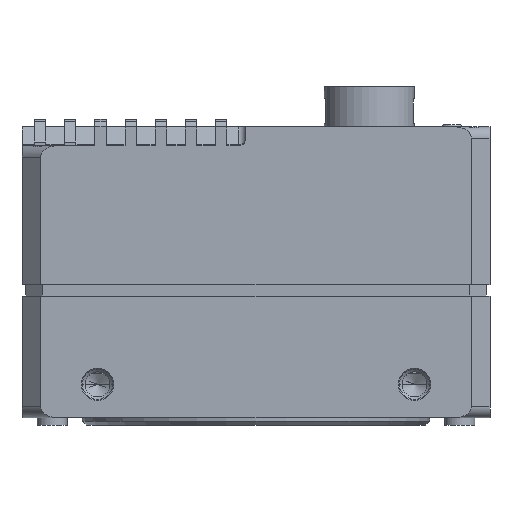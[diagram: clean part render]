
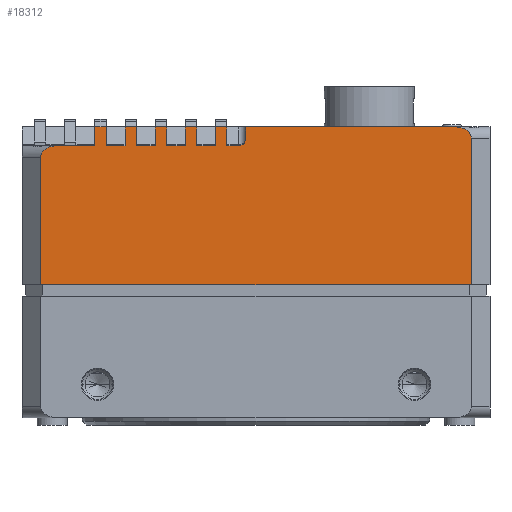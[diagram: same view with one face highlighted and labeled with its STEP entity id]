
A CAD part, front view. The second image highlights one B-rep face of the part: STEP entity #18312.
In plain terms, the highlighted planar face has unit normal (0, -1, 0) as drawn and (0, 1, 0) by its records, which use the part's own axes.
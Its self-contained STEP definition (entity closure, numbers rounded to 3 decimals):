
#14422=DIRECTION('',(0.,0.,1.));
#14423=VECTOR('',#14422,2.5);
#14424=CARTESIAN_POINT('',(7.85,31.,21.995));
#14425=LINE('',#14424,#14423);
#14451=DIRECTION('',(-1.,0.,0.));
#14452=VECTOR('',#14451,1.5);
#14453=CARTESIAN_POINT('',(3.85,31.,21.995));
#14454=LINE('',#14453,#14452);
#14455=DIRECTION('',(0.,0.,-1.));
#14456=VECTOR('',#14455,1.5);
#14457=CARTESIAN_POINT('',(1.35,31.,24.495));
#14458=LINE('',#14457,#14456);
#14459=DIRECTION('',(-1.,0.,0.));
#14460=VECTOR('',#14459,27.729);
#14461=CARTESIAN_POINT('',(1.35,31.,24.495));
#14462=LINE('',#14461,#14460);
#14463=CARTESIAN_POINT('',(-28.5,31.,22.995));
#14464=CARTESIAN_POINT('',(-28.5,31.,23.146));
#14465=CARTESIAN_POINT('',(-28.443,31.,23.39));
#14466=CARTESIAN_POINT('',(-28.226,31.,23.777));
#14467=CARTESIAN_POINT('',(-27.826,31.,24.131));
#14468=CARTESIAN_POINT('',(-27.2,31.,24.411));
#14469=CARTESIAN_POINT('',(-26.68,31.,24.495));
#14470=CARTESIAN_POINT('',(-26.379,31.,24.495));
#14472=DIRECTION('',(0.,0.,-1.));
#14473=VECTOR('',#14472,19.405);
#14474=CARTESIAN_POINT('',(-28.5,31.,22.995));
#14475=LINE('',#14474,#14473);
#14476=DIRECTION('',(-1.,0.,0.));
#14477=VECTOR('',#14476,57.);
#14478=CARTESIAN_POINT('',(28.5,31.,3.59));
#14479=LINE('',#14478,#14477);
#14480=DIRECTION('',(0.,0.,1.));
#14481=VECTOR('',#14480,16.905);
#14482=CARTESIAN_POINT('',(28.5,31.,3.59));
#14483=LINE('',#14482,#14481);
#14484=CARTESIAN_POINT('',(26.379,31.,21.995));
#14485=CARTESIAN_POINT('',(26.68,31.,21.995));
#14486=CARTESIAN_POINT('',(27.2,31.,21.911));
#14487=CARTESIAN_POINT('',(27.826,31.,21.631));
#14488=CARTESIAN_POINT('',(28.226,31.,21.277));
#14489=CARTESIAN_POINT('',(28.443,31.,20.89));
#14490=CARTESIAN_POINT('',(28.5,31.,20.646));
#14491=CARTESIAN_POINT('',(28.5,31.,20.495));
#14493=DIRECTION('',(-1.,0.,0.));
#14494=VECTOR('',#14493,5.029);
#14495=CARTESIAN_POINT('',(26.379,31.,21.995));
#14496=LINE('',#14495,#14494);
#14497=DIRECTION('',(-1.,0.,0.));
#14498=VECTOR('',#14497,1.5);
#14499=CARTESIAN_POINT('',(21.35,31.,24.495));
#14500=LINE('',#14499,#14498);
#14501=DIRECTION('',(-1.,0.,0.));
#14502=VECTOR('',#14501,2.5);
#14503=CARTESIAN_POINT('',(19.85,31.,21.995));
#14504=LINE('',#14503,#14502);
#14505=DIRECTION('',(-1.,0.,0.));
#14506=VECTOR('',#14505,1.5);
#14507=CARTESIAN_POINT('',(17.35,31.,24.495));
#14508=LINE('',#14507,#14506);
#14509=DIRECTION('',(-1.,0.,0.));
#14510=VECTOR('',#14509,2.5);
#14511=CARTESIAN_POINT('',(15.85,31.,21.995));
#14512=LINE('',#14511,#14510);
#14513=DIRECTION('',(-1.,0.,0.));
#14514=VECTOR('',#14513,1.5);
#14515=CARTESIAN_POINT('',(13.35,31.,24.495));
#14516=LINE('',#14515,#14514);
#14517=DIRECTION('',(-1.,0.,0.));
#14518=VECTOR('',#14517,2.5);
#14519=CARTESIAN_POINT('',(11.85,31.,21.995));
#14520=LINE('',#14519,#14518);
#14521=DIRECTION('',(-1.,0.,0.));
#14522=VECTOR('',#14521,1.5);
#14523=CARTESIAN_POINT('',(9.35,31.,24.495));
#14524=LINE('',#14523,#14522);
#14525=DIRECTION('',(-1.,0.,0.));
#14526=VECTOR('',#14525,2.5);
#14527=CARTESIAN_POINT('',(7.85,31.,21.995));
#14528=LINE('',#14527,#14526);
#14529=DIRECTION('',(-1.,0.,0.));
#14530=VECTOR('',#14529,1.5);
#14531=CARTESIAN_POINT('',(5.35,31.,24.495));
#14532=LINE('',#14531,#14530);
#14533=CARTESIAN_POINT('',(2.35,31.,22.995));
#14534=DIRECTION('',(0.,-1.,0.));
#14535=DIRECTION('',(-1.,0.,0.));
#14536=AXIS2_PLACEMENT_3D('',#14533,#14534,#14535);
#16697=DIRECTION('',(0.,0.,1.));
#16698=VECTOR('',#16697,2.5);
#16699=CARTESIAN_POINT('',(3.85,31.,21.995));
#16700=LINE('',#16699,#16698);
#16736=DIRECTION('',(0.,0.,1.));
#16737=VECTOR('',#16736,2.5);
#16738=CARTESIAN_POINT('',(5.35,31.,21.995));
#16739=LINE('',#16738,#16737);
#16774=DIRECTION('',(0.,0.,1.));
#16775=VECTOR('',#16774,2.5);
#16776=CARTESIAN_POINT('',(9.35,31.,21.995));
#16777=LINE('',#16776,#16775);
#16795=DIRECTION('',(0.,0.,1.));
#16796=VECTOR('',#16795,2.5);
#16797=CARTESIAN_POINT('',(11.85,31.,21.995));
#16798=LINE('',#16797,#16796);
#16834=DIRECTION('',(0.,0.,1.));
#16835=VECTOR('',#16834,2.5);
#16836=CARTESIAN_POINT('',(13.35,31.,21.995));
#16837=LINE('',#16836,#16835);
#16863=DIRECTION('',(0.,0.,1.));
#16864=VECTOR('',#16863,2.5);
#16865=CARTESIAN_POINT('',(15.85,31.,21.995));
#16866=LINE('',#16865,#16864);
#16902=DIRECTION('',(0.,0.,1.));
#16903=VECTOR('',#16902,2.5);
#16904=CARTESIAN_POINT('',(17.35,31.,21.995));
#16905=LINE('',#16904,#16903);
#16931=DIRECTION('',(0.,0.,1.));
#16932=VECTOR('',#16931,2.5);
#16933=CARTESIAN_POINT('',(19.85,31.,21.995));
#16934=LINE('',#16933,#16932);
#16970=DIRECTION('',(0.,0.,1.));
#16971=VECTOR('',#16970,2.5);
#16972=CARTESIAN_POINT('',(21.35,31.,21.995));
#16973=LINE('',#16972,#16971);
#17216=VERTEX_POINT('',#14463);
#17217=VERTEX_POINT('',#14470);
#17254=CARTESIAN_POINT('',(28.5,31.,3.59));
#17255=CARTESIAN_POINT('',(-28.5,31.,3.59));
#17256=VERTEX_POINT('',#17254);
#17257=VERTEX_POINT('',#17255);
#17378=CARTESIAN_POINT('',(1.35,31.,24.495));
#17379=VERTEX_POINT('',#17378);
#17382=VERTEX_POINT('',#14484);
#17383=VERTEX_POINT('',#14491);
#17397=CARTESIAN_POINT('',(3.85,31.,21.995));
#17399=VERTEX_POINT('',#17397);
#17401=CARTESIAN_POINT('',(5.35,31.,21.995));
#17403=VERTEX_POINT('',#17401);
#17413=CARTESIAN_POINT('',(7.85,31.,21.995));
#17415=VERTEX_POINT('',#17413);
#17417=CARTESIAN_POINT('',(9.35,31.,21.995));
#17419=VERTEX_POINT('',#17417);
#17429=CARTESIAN_POINT('',(11.85,31.,21.995));
#17431=VERTEX_POINT('',#17429);
#17433=CARTESIAN_POINT('',(13.35,31.,21.995));
#17435=VERTEX_POINT('',#17433);
#17445=CARTESIAN_POINT('',(15.85,31.,21.995));
#17447=VERTEX_POINT('',#17445);
#17449=CARTESIAN_POINT('',(17.35,31.,21.995));
#17451=VERTEX_POINT('',#17449);
#17461=CARTESIAN_POINT('',(19.85,31.,21.995));
#17463=VERTEX_POINT('',#17461);
#17465=CARTESIAN_POINT('',(21.35,31.,21.995));
#17467=VERTEX_POINT('',#17465);
#17468=CARTESIAN_POINT('',(21.35,31.,24.495));
#17469=CARTESIAN_POINT('',(19.85,31.,24.495));
#17470=VERTEX_POINT('',#17468);
#17471=VERTEX_POINT('',#17469);
#17472=CARTESIAN_POINT('',(17.35,31.,24.495));
#17473=CARTESIAN_POINT('',(15.85,31.,24.495));
#17474=VERTEX_POINT('',#17472);
#17475=VERTEX_POINT('',#17473);
#17476=CARTESIAN_POINT('',(13.35,31.,24.495));
#17477=CARTESIAN_POINT('',(11.85,31.,24.495));
#17478=VERTEX_POINT('',#17476);
#17479=VERTEX_POINT('',#17477);
#17480=CARTESIAN_POINT('',(9.35,31.,24.495));
#17481=CARTESIAN_POINT('',(7.85,31.,24.495));
#17482=VERTEX_POINT('',#17480);
#17483=VERTEX_POINT('',#17481);
#17484=CARTESIAN_POINT('',(5.35,31.,24.495));
#17485=CARTESIAN_POINT('',(3.85,31.,24.495));
#17486=VERTEX_POINT('',#17484);
#17487=VERTEX_POINT('',#17485);
#17823=CARTESIAN_POINT('',(2.35,31.,21.995));
#17825=VERTEX_POINT('',#17823);
#17827=CARTESIAN_POINT('',(1.35,31.,22.995));
#17828=VERTEX_POINT('',#17827);
#18257=CARTESIAN_POINT('',(31.,31.,4.6));
#18258=DIRECTION('',(0.,1.,0.));
#18259=DIRECTION('',(-1.,0.,0.));
#18260=AXIS2_PLACEMENT_3D('',#18257,#18258,#18259);
#18261=PLANE('',#18260);
#18262=ORIENTED_EDGE('',*,*,#18147,.T.);
#18264=ORIENTED_EDGE('',*,*,#18263,.F.);
#18266=ORIENTED_EDGE('',*,*,#18265,.F.);
#18268=ORIENTED_EDGE('',*,*,#18267,.T.);
#18270=ORIENTED_EDGE('',*,*,#18269,.F.);
#18272=ORIENTED_EDGE('',*,*,#18271,.T.);
#18274=ORIENTED_EDGE('',*,*,#18273,.F.);
#18275=ORIENTED_EDGE('',*,*,#17962,.T.);
#18276=ORIENTED_EDGE('',*,*,#17980,.F.);
#18277=ORIENTED_EDGE('',*,*,#18169,.T.);
#18279=ORIENTED_EDGE('',*,*,#18278,.T.);
#18281=ORIENTED_EDGE('',*,*,#18280,.T.);
#18283=ORIENTED_EDGE('',*,*,#18282,.F.);
#18284=ORIENTED_EDGE('',*,*,#18135,.T.);
#18286=ORIENTED_EDGE('',*,*,#18285,.T.);
#18288=ORIENTED_EDGE('',*,*,#18287,.T.);
#18290=ORIENTED_EDGE('',*,*,#18289,.F.);
#18291=ORIENTED_EDGE('',*,*,#18119,.T.);
#18293=ORIENTED_EDGE('',*,*,#18292,.T.);
#18295=ORIENTED_EDGE('',*,*,#18294,.T.);
#18297=ORIENTED_EDGE('',*,*,#18296,.F.);
#18298=ORIENTED_EDGE('',*,*,#18103,.T.);
#18300=ORIENTED_EDGE('',*,*,#18299,.T.);
#18301=ORIENTED_EDGE('',*,*,#18250,.T.);
#18302=ORIENTED_EDGE('',*,*,#18189,.F.);
#18303=ORIENTED_EDGE('',*,*,#18087,.T.);
#18305=ORIENTED_EDGE('',*,*,#18304,.T.);
#18307=ORIENTED_EDGE('',*,*,#18306,.T.);
#18309=ORIENTED_EDGE('',*,*,#18308,.F.);
#18310=EDGE_LOOP('',(#18262,#18264,#18266,#18268,#18270,#18272,#18274,#18275,
#18276,#18277,#18279,#18281,#18283,#18284,#18286,#18288,#18290,#18291,#18293,
#18295,#18297,#18298,#18300,#18301,#18302,#18303,#18305,#18307,#18309));
#18311=FACE_OUTER_BOUND('',#18310,.F.);
#18312=ADVANCED_FACE('',(#18311),#18261,.T.);
#14471=B_SPLINE_CURVE_WITH_KNOTS('',3,(#14463,#14464,#14465,#14466,#14467,
#14468,#14469,#14470),.UNSPECIFIED.,.F.,.F.,(4,1,1,1,1,4),(0.,0.125,0.25,
0.5,0.75,1.),.UNSPECIFIED.);
#14492=B_SPLINE_CURVE_WITH_KNOTS('',3,(#14484,#14485,#14486,#14487,#14488,
#14489,#14490,#14491),.UNSPECIFIED.,.F.,.F.,(4,1,1,1,1,4),(0.,0.25,0.5,
0.75,0.875,1.),.UNSPECIFIED.);
#14537=CIRCLE('',#14536,1.);
#17962=EDGE_CURVE('',#17256,#17383,#14483,.T.);
#17980=EDGE_CURVE('',#17382,#17383,#14492,.T.);
#18087=EDGE_CURVE('',#17415,#17403,#14528,.T.);
#18103=EDGE_CURVE('',#17431,#17419,#14520,.T.);
#18119=EDGE_CURVE('',#17447,#17435,#14512,.T.);
#18135=EDGE_CURVE('',#17463,#17451,#14504,.T.);
#18147=EDGE_CURVE('',#17399,#17825,#14454,.T.);
#18169=EDGE_CURVE('',#17382,#17467,#14496,.T.);
#18189=EDGE_CURVE('',#17415,#17483,#14425,.T.);
#18250=EDGE_CURVE('',#17482,#17483,#14524,.T.);
#18263=EDGE_CURVE('',#17828,#17825,#14537,.T.);
#18265=EDGE_CURVE('',#17379,#17828,#14458,.T.);
#18267=EDGE_CURVE('',#17379,#17217,#14462,.T.);
#18269=EDGE_CURVE('',#17216,#17217,#14471,.T.);
#18271=EDGE_CURVE('',#17216,#17257,#14475,.T.);
#18273=EDGE_CURVE('',#17256,#17257,#14479,.T.);
#18278=EDGE_CURVE('',#17467,#17470,#16973,.T.);
#18280=EDGE_CURVE('',#17470,#17471,#14500,.T.);
#18282=EDGE_CURVE('',#17463,#17471,#16934,.T.);
#18285=EDGE_CURVE('',#17451,#17474,#16905,.T.);
#18287=EDGE_CURVE('',#17474,#17475,#14508,.T.);
#18289=EDGE_CURVE('',#17447,#17475,#16866,.T.);
#18292=EDGE_CURVE('',#17435,#17478,#16837,.T.);
#18294=EDGE_CURVE('',#17478,#17479,#14516,.T.);
#18296=EDGE_CURVE('',#17431,#17479,#16798,.T.);
#18299=EDGE_CURVE('',#17419,#17482,#16777,.T.);
#18304=EDGE_CURVE('',#17403,#17486,#16739,.T.);
#18306=EDGE_CURVE('',#17486,#17487,#14532,.T.);
#18308=EDGE_CURVE('',#17399,#17487,#16700,.T.);
